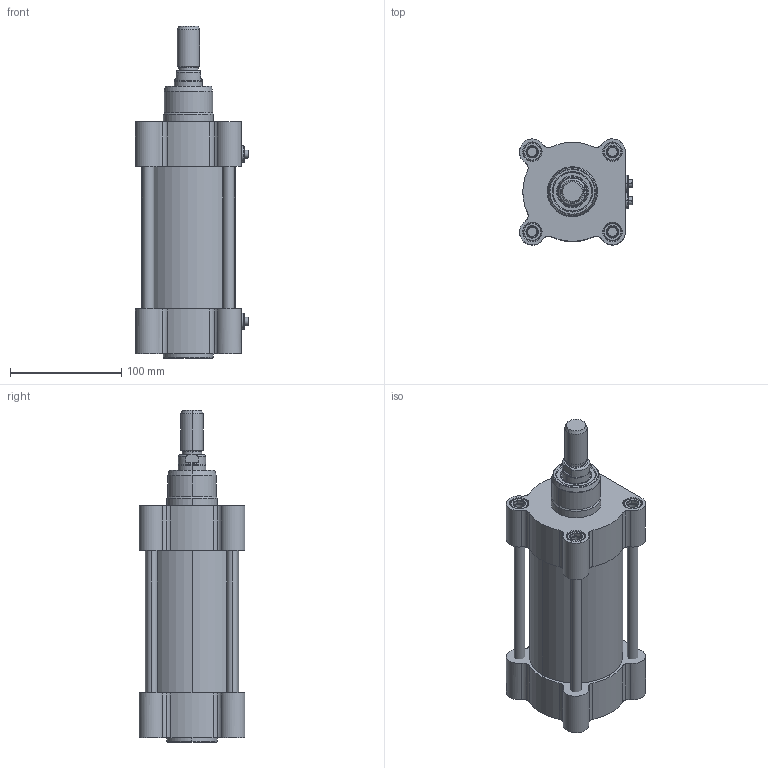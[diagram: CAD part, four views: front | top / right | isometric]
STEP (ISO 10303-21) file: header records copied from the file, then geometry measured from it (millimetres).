
FILE_DESCRIPTION (( 'STEP AP203' ), '1' );
FILE_NAME ('CTMI80-80.STEP', '2020-03-26T19:37:44', ( '' ), ( '' ), 'SwSTEP 2.0', 'SolidWorks 2019', '' );
FILE_SCHEMA (( 'CONFIG_CONTROL_DESIGN' ));
Length unit declared in the file: millimetre
Products named in the file (1): CTMI80-80
Bounding box: 101.5 x 95 x 298 mm (x, y, z)
Surface area: 218685.2 mm2 (no closed solid volume)
Topology: 0 solids, 26 shells, 731 faces, 1682 edges, 1038 vertices
Faces by surface type: cone 230, cylinder 204, plane 195, torus 86, bspline 16
Entity records: 28025 total; most frequent: CARTESIAN_POINT 12647, ORIENTED_EDGE 3308, DIRECTION 2906, EDGE_CURVE 1682, AXIS2_PLACEMENT_3D 1202, VERTEX_POINT 1038, EDGE_LOOP 804, FACE_OUTER_BOUND 731
